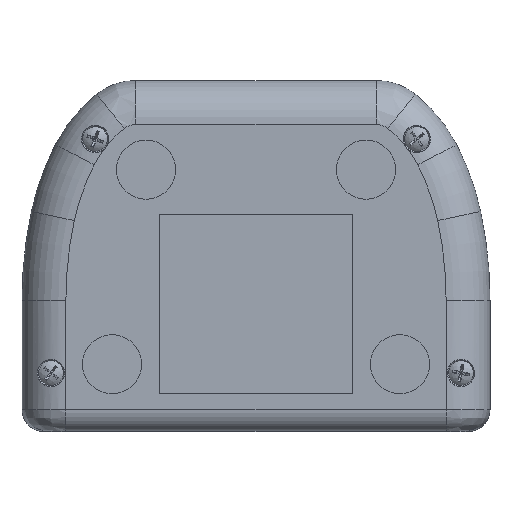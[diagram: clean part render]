
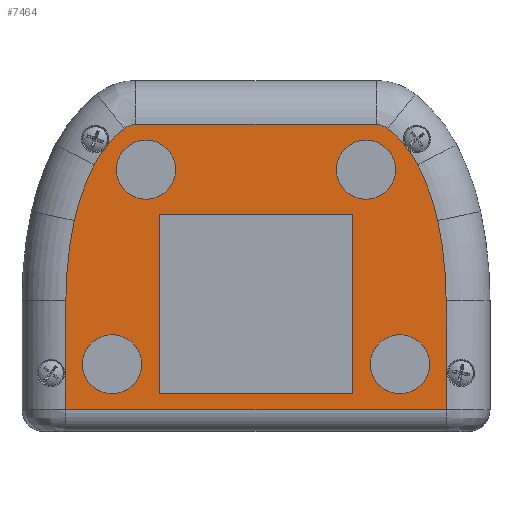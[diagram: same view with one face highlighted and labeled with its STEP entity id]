
A CAD part, front view. The second image highlights one B-rep face of the part: STEP entity #7464.
In plain terms, the highlighted planar face has unit normal (0, -1, 0).
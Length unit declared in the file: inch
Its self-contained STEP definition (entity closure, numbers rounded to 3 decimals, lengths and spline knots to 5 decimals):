
#106=PLANE('',#8083);
#254=FACE_BOUND('',#1033,.T.);
#255=FACE_BOUND('',#1034,.T.);
#256=FACE_BOUND('',#1035,.T.);
#257=FACE_BOUND('',#1036,.T.);
#258=FACE_BOUND('',#1037,.T.);
#579=FACE_OUTER_BOUND('',#1032,.T.);
#1032=EDGE_LOOP('',(#5193,#5194,#5195,#5196,#5197,#5198,#5199,#5200,#5201,
#5202,#5203,#5204,#5205,#5206,#5207,#5208));
#1033=EDGE_LOOP('',(#5209,#5210,#5211,#5212));
#1034=EDGE_LOOP('',(#5213,#5214));
#1035=EDGE_LOOP('',(#5215,#5216));
#1036=EDGE_LOOP('',(#5217,#5218));
#1037=EDGE_LOOP('',(#5219,#5220));
#1482=LINE('',#11943,#1985);
#1485=LINE('',#11957,#1988);
#1492=LINE('',#12000,#1995);
#1493=LINE('',#12009,#1996);
#1494=LINE('',#12015,#1997);
#1495=LINE('',#12017,#1998);
#1496=LINE('',#12019,#1999);
#1497=LINE('',#12020,#2000);
#1985=VECTOR('',#9204,39.37008);
#1988=VECTOR('',#9217,39.37008);
#1995=VECTOR('',#9260,39.37008);
#1996=VECTOR('',#9271,39.37008);
#1997=VECTOR('',#9276,39.37008);
#1998=VECTOR('',#9277,39.37008);
#1999=VECTOR('',#9278,39.37008);
#2000=VECTOR('',#9279,39.37008);
#2462=CIRCLE('',#7923,0.2525);
#2463=CIRCLE('',#7924,0.2525);
#2466=CIRCLE('',#7928,0.2525);
#2467=CIRCLE('',#7929,0.2525);
#2470=CIRCLE('',#7933,0.2525);
#2471=CIRCLE('',#7934,0.2525);
#2474=CIRCLE('',#7938,0.2525);
#2475=CIRCLE('',#7939,0.2525);
#2527=CIRCLE('',#8008,0.1165);
#2542=CIRCLE('',#8028,0.1165);
#2583=CIRCLE('',#8084,0.97387);
#2584=CIRCLE('',#8085,0.97387);
#2585=CIRCLE('',#8086,0.15487);
#2586=CIRCLE('',#8087,0.15487);
#2587=CIRCLE('',#8088,0.97387);
#2588=CIRCLE('',#8089,0.97387);
#2589=CIRCLE('',#8090,1.90287);
#2590=CIRCLE('',#8091,3.24287);
#2591=CIRCLE('',#8092,3.24287);
#2592=CIRCLE('',#8093,1.90287);
#3001=VERTEX_POINT('',#11326);
#3002=VERTEX_POINT('',#11328);
#3005=VERTEX_POINT('',#11336);
#3006=VERTEX_POINT('',#11338);
#3009=VERTEX_POINT('',#11346);
#3010=VERTEX_POINT('',#11348);
#3013=VERTEX_POINT('',#11356);
#3014=VERTEX_POINT('',#11358);
#3070=VERTEX_POINT('',#11611);
#3071=VERTEX_POINT('',#11651);
#3086=VERTEX_POINT('',#11721);
#3087=VERTEX_POINT('',#11730);
#3119=VERTEX_POINT('',#11941);
#3120=VERTEX_POINT('',#11942);
#3125=VERTEX_POINT('',#11954);
#3126=VERTEX_POINT('',#11956);
#3141=VERTEX_POINT('',#11993);
#3142=VERTEX_POINT('',#11995);
#3143=VERTEX_POINT('',#11997);
#3144=VERTEX_POINT('',#11999);
#3145=VERTEX_POINT('',#12001);
#3146=VERTEX_POINT('',#12004);
#3147=VERTEX_POINT('',#12006);
#3148=VERTEX_POINT('',#12010);
#3149=VERTEX_POINT('',#12013);
#3150=VERTEX_POINT('',#12014);
#3151=VERTEX_POINT('',#12016);
#3152=VERTEX_POINT('',#12018);
#3762=EDGE_CURVE('',#3001,#3002,#2462,.T.);
#3763=EDGE_CURVE('',#3002,#3001,#2463,.T.);
#3767=EDGE_CURVE('',#3005,#3006,#2466,.T.);
#3768=EDGE_CURVE('',#3006,#3005,#2467,.T.);
#3772=EDGE_CURVE('',#3009,#3010,#2470,.T.);
#3773=EDGE_CURVE('',#3010,#3009,#2471,.T.);
#3777=EDGE_CURVE('',#3013,#3014,#2474,.T.);
#3778=EDGE_CURVE('',#3014,#3013,#2475,.T.);
#3850=EDGE_CURVE('',#3071,#3070,#2527,.T.);
#3872=EDGE_CURVE('',#3087,#3086,#2542,.T.);
#3911=EDGE_CURVE('',#3119,#3120,#1482,.T.);
#3917=EDGE_CURVE('',#3126,#3125,#1485,.T.);
#3936=EDGE_CURVE('',#3141,#3071,#2583,.T.);
#3937=EDGE_CURVE('',#3070,#3142,#2584,.T.);
#3938=EDGE_CURVE('',#3142,#3143,#2585,.T.);
#3939=EDGE_CURVE('',#3143,#3144,#1492,.T.);
#3940=EDGE_CURVE('',#3144,#3145,#2586,.T.);
#3941=EDGE_CURVE('',#3145,#3087,#2587,.T.);
#3942=EDGE_CURVE('',#3086,#3146,#2588,.T.);
#3943=EDGE_CURVE('',#3146,#3147,#2589,.T.);
#3944=EDGE_CURVE('',#3147,#3126,#2590,.T.);
#3945=EDGE_CURVE('',#3125,#3119,#1493,.T.);
#3946=EDGE_CURVE('',#3120,#3148,#2591,.T.);
#3947=EDGE_CURVE('',#3148,#3141,#2592,.T.);
#3948=EDGE_CURVE('',#3149,#3150,#1494,.T.);
#3949=EDGE_CURVE('',#3151,#3149,#1495,.T.);
#3950=EDGE_CURVE('',#3152,#3151,#1496,.T.);
#3951=EDGE_CURVE('',#3150,#3152,#1497,.T.);
#5193=ORIENTED_EDGE('',*,*,#3936,.T.);
#5194=ORIENTED_EDGE('',*,*,#3850,.T.);
#5195=ORIENTED_EDGE('',*,*,#3937,.T.);
#5196=ORIENTED_EDGE('',*,*,#3938,.T.);
#5197=ORIENTED_EDGE('',*,*,#3939,.T.);
#5198=ORIENTED_EDGE('',*,*,#3940,.T.);
#5199=ORIENTED_EDGE('',*,*,#3941,.T.);
#5200=ORIENTED_EDGE('',*,*,#3872,.T.);
#5201=ORIENTED_EDGE('',*,*,#3942,.T.);
#5202=ORIENTED_EDGE('',*,*,#3943,.T.);
#5203=ORIENTED_EDGE('',*,*,#3944,.T.);
#5204=ORIENTED_EDGE('',*,*,#3917,.T.);
#5205=ORIENTED_EDGE('',*,*,#3945,.T.);
#5206=ORIENTED_EDGE('',*,*,#3911,.T.);
#5207=ORIENTED_EDGE('',*,*,#3946,.T.);
#5208=ORIENTED_EDGE('',*,*,#3947,.T.);
#5209=ORIENTED_EDGE('',*,*,#3948,.F.);
#5210=ORIENTED_EDGE('',*,*,#3949,.F.);
#5211=ORIENTED_EDGE('',*,*,#3950,.F.);
#5212=ORIENTED_EDGE('',*,*,#3951,.F.);
#5213=ORIENTED_EDGE('',*,*,#3763,.F.);
#5214=ORIENTED_EDGE('',*,*,#3762,.F.);
#5215=ORIENTED_EDGE('',*,*,#3768,.F.);
#5216=ORIENTED_EDGE('',*,*,#3767,.F.);
#5217=ORIENTED_EDGE('',*,*,#3773,.F.);
#5218=ORIENTED_EDGE('',*,*,#3772,.F.);
#5219=ORIENTED_EDGE('',*,*,#3778,.F.);
#5220=ORIENTED_EDGE('',*,*,#3777,.F.);
#7464=ADVANCED_FACE('',(#579,#254,#255,#256,#257,#258),#106,.T.);
#7923=AXIS2_PLACEMENT_3D('',#11329,#8895,#8896);
#7924=AXIS2_PLACEMENT_3D('',#11330,#8897,#8898);
#7928=AXIS2_PLACEMENT_3D('',#11339,#8906,#8907);
#7929=AXIS2_PLACEMENT_3D('',#11340,#8908,#8909);
#7933=AXIS2_PLACEMENT_3D('',#11349,#8917,#8918);
#7934=AXIS2_PLACEMENT_3D('',#11350,#8919,#8920);
#7938=AXIS2_PLACEMENT_3D('',#11359,#8928,#8929);
#7939=AXIS2_PLACEMENT_3D('',#11360,#8930,#8931);
#8008=AXIS2_PLACEMENT_3D('',#11652,#9083,#9084);
#8028=AXIS2_PLACEMENT_3D('',#11731,#9127,#9128);
#8083=AXIS2_PLACEMENT_3D('',#11992,#9252,#9253);
#8084=AXIS2_PLACEMENT_3D('',#11994,#9254,#9255);
#8085=AXIS2_PLACEMENT_3D('',#11996,#9256,#9257);
#8086=AXIS2_PLACEMENT_3D('',#11998,#9258,#9259);
#8087=AXIS2_PLACEMENT_3D('',#12002,#9261,#9262);
#8088=AXIS2_PLACEMENT_3D('',#12003,#9263,#9264);
#8089=AXIS2_PLACEMENT_3D('',#12005,#9265,#9266);
#8090=AXIS2_PLACEMENT_3D('',#12007,#9267,#9268);
#8091=AXIS2_PLACEMENT_3D('',#12008,#9269,#9270);
#8092=AXIS2_PLACEMENT_3D('',#12011,#9272,#9273);
#8093=AXIS2_PLACEMENT_3D('',#12012,#9274,#9275);
#8895=DIRECTION('center_axis',(0.,-1.,0.));
#8896=DIRECTION('ref_axis',(0.,0.,1.));
#8897=DIRECTION('center_axis',(0.,-1.,0.));
#8898=DIRECTION('ref_axis',(0.,0.,1.));
#8906=DIRECTION('center_axis',(0.,-1.,0.));
#8907=DIRECTION('ref_axis',(0.,0.,-1.));
#8908=DIRECTION('center_axis',(0.,-1.,0.));
#8909=DIRECTION('ref_axis',(0.,0.,-1.));
#8917=DIRECTION('center_axis',(0.,-1.,0.));
#8918=DIRECTION('ref_axis',(0.,0.,1.));
#8919=DIRECTION('center_axis',(0.,-1.,0.));
#8920=DIRECTION('ref_axis',(0.,0.,1.));
#8928=DIRECTION('center_axis',(0.,-1.,0.));
#8929=DIRECTION('ref_axis',(0.,0.,-1.));
#8930=DIRECTION('center_axis',(0.,-1.,0.));
#8931=DIRECTION('ref_axis',(0.,0.,-1.));
#9083=DIRECTION('center_axis',(0.,1.,0.));
#9084=DIRECTION('ref_axis',(0.,0.,-1.));
#9127=DIRECTION('center_axis',(0.,1.,0.));
#9128=DIRECTION('ref_axis',(0.,0.,-1.));
#9204=DIRECTION('',(0.,0.,-1.));
#9217=DIRECTION('',(0.,0.,1.));
#9252=DIRECTION('center_axis',(0.,-1.,0.));
#9253=DIRECTION('ref_axis',(0.,0.,-1.));
#9254=DIRECTION('center_axis',(0.,-1.,0.));
#9255=DIRECTION('ref_axis',(0.,0.,-1.));
#9256=DIRECTION('center_axis',(0.,-1.,0.));
#9257=DIRECTION('ref_axis',(0.,0.,-1.));
#9258=DIRECTION('center_axis',(0.,-1.,0.));
#9259=DIRECTION('ref_axis',(0.,0.,-1.));
#9260=DIRECTION('',(1.,0.,0.));
#9261=DIRECTION('center_axis',(0.,-1.,0.));
#9262=DIRECTION('ref_axis',(0.,0.,-1.));
#9263=DIRECTION('center_axis',(0.,-1.,0.));
#9264=DIRECTION('ref_axis',(0.,0.,-1.));
#9265=DIRECTION('center_axis',(0.,-1.,0.));
#9266=DIRECTION('ref_axis',(0.,0.,-1.));
#9267=DIRECTION('center_axis',(0.,-1.,0.));
#9268=DIRECTION('ref_axis',(0.,0.,-1.));
#9269=DIRECTION('center_axis',(0.,-1.,0.));
#9270=DIRECTION('ref_axis',(0.,0.,-1.));
#9271=DIRECTION('',(-1.,0.,0.));
#9272=DIRECTION('center_axis',(0.,-1.,0.));
#9273=DIRECTION('ref_axis',(0.,0.,-1.));
#9274=DIRECTION('center_axis',(0.,-1.,0.));
#9275=DIRECTION('ref_axis',(0.,0.,-1.));
#9276=DIRECTION('',(0.,0.,1.));
#9277=DIRECTION('',(1.,0.,0.));
#9278=DIRECTION('',(0.,0.,-1.));
#9279=DIRECTION('',(-1.,0.,0.));
#11326=CARTESIAN_POINT('',(-0.94,-0.375,-0.4855));
#11328=CARTESIAN_POINT('',(-0.94,-0.375,-0.9905));
#11329=CARTESIAN_POINT('Origin',(-0.94,-0.375,-0.738));
#11330=CARTESIAN_POINT('Origin',(-0.94,-0.375,-0.738));
#11336=CARTESIAN_POINT('',(0.94,-0.375,-0.4855));
#11338=CARTESIAN_POINT('',(0.94,-0.375,-0.9905));
#11339=CARTESIAN_POINT('Origin',(0.94,-0.375,-0.738));
#11340=CARTESIAN_POINT('Origin',(0.94,-0.375,-0.738));
#11346=CARTESIAN_POINT('',(-1.23,-0.375,1.1775));
#11348=CARTESIAN_POINT('',(-1.23,-0.375,0.6725));
#11349=CARTESIAN_POINT('Origin',(-1.23,-0.375,0.925));
#11350=CARTESIAN_POINT('Origin',(-1.23,-0.375,0.925));
#11356=CARTESIAN_POINT('',(1.23,-0.375,1.1775));
#11358=CARTESIAN_POINT('',(1.23,-0.375,0.6725));
#11359=CARTESIAN_POINT('Origin',(1.23,-0.375,0.925));
#11360=CARTESIAN_POINT('Origin',(1.23,-0.375,0.925));
#11611=CARTESIAN_POINT('',(-1.27086,-0.375,-0.94777));
#11651=CARTESIAN_POINT('',(-1.29897,-0.375,-0.91173));
#11652=CARTESIAN_POINT('Origin',(-1.375,-0.375,-1.));
#11721=CARTESIAN_POINT('',(1.29897,-0.375,-0.91173));
#11730=CARTESIAN_POINT('',(1.27086,-0.375,-0.94777));
#11731=CARTESIAN_POINT('Origin',(1.375,-0.375,-1.));
#11941=CARTESIAN_POINT('',(-1.62487,-0.375,1.312));
#11942=CARTESIAN_POINT('',(-1.62487,-0.375,0.377));
#11943=CARTESIAN_POINT('',(-1.62487,-0.375,0.377));
#11954=CARTESIAN_POINT('',(1.62487,-0.375,1.312));
#11956=CARTESIAN_POINT('',(1.62487,-0.375,0.377));
#11957=CARTESIAN_POINT('',(1.62487,-0.375,0.377));
#11992=CARTESIAN_POINT('Origin',(1.618,-0.375,0.377));
#11993=CARTESIAN_POINT('',(-1.3819,-0.375,-0.77898));
#11994=CARTESIAN_POINT('Origin',(-0.51716,-0.375,-0.33104));
#11995=CARTESIAN_POINT('',(-1.12638,-0.375,-1.09083));
#11996=CARTESIAN_POINT('Origin',(-0.51716,-0.375,-0.33104));
#11997=CARTESIAN_POINT('',(-1.0295,-0.375,-1.12487));
#11998=CARTESIAN_POINT('Origin',(-1.0295,-0.375,-0.97));
#11999=CARTESIAN_POINT('',(1.0295,-0.375,-1.12487));
#12000=CARTESIAN_POINT('',(1.618,-0.375,-1.12487));
#12001=CARTESIAN_POINT('',(1.12638,-0.375,-1.09083));
#12002=CARTESIAN_POINT('Origin',(1.0295,-0.375,-0.97));
#12003=CARTESIAN_POINT('Origin',(0.51716,-0.375,-0.33104));
#12004=CARTESIAN_POINT('',(1.3819,-0.375,-0.77898));
#12005=CARTESIAN_POINT('Origin',(0.51716,-0.375,-0.33104));
#12006=CARTESIAN_POINT('',(1.5529,-0.375,-0.30241));
#12007=CARTESIAN_POINT('Origin',(-0.30774,-0.375,0.09626));
#12008=CARTESIAN_POINT('Origin',(-1.618,-0.375,0.377));
#12009=CARTESIAN_POINT('',(1.618,-0.375,1.312));
#12010=CARTESIAN_POINT('',(-1.5529,-0.375,-0.30241));
#12011=CARTESIAN_POINT('Origin',(1.618,-0.375,0.377));
#12012=CARTESIAN_POINT('Origin',(0.30774,-0.375,0.09626));
#12013=CARTESIAN_POINT('',(0.829,-0.375,-0.356));
#12014=CARTESIAN_POINT('',(0.829,-0.375,1.177));
#12015=CARTESIAN_POINT('',(0.829,-0.375,1.177));
#12016=CARTESIAN_POINT('',(-0.829,-0.375,-0.356));
#12017=CARTESIAN_POINT('',(0.829,-0.375,-0.356));
#12018=CARTESIAN_POINT('',(-0.829,-0.375,1.177));
#12019=CARTESIAN_POINT('',(-0.829,-0.375,1.177));
#12020=CARTESIAN_POINT('',(0.829,-0.375,1.177));
